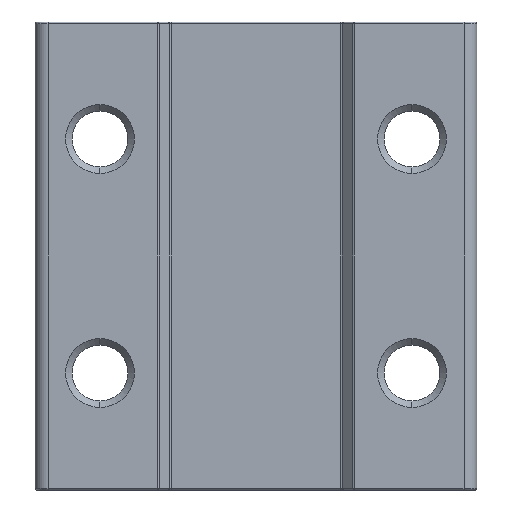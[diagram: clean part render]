
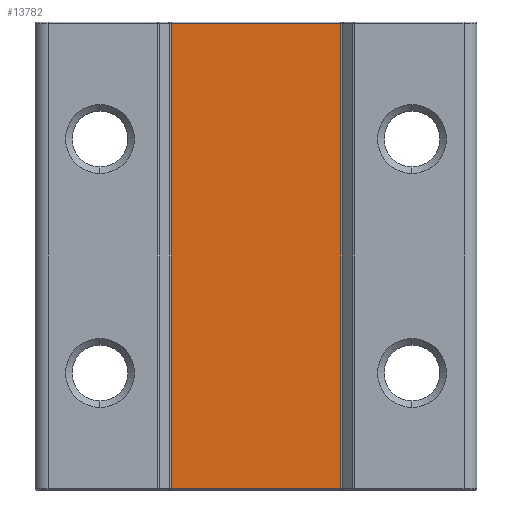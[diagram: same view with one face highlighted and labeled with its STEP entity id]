
A CAD part, front view. The second image highlights one B-rep face of the part: STEP entity #13782.
In plain terms, the highlighted planar face has unit normal (0, -1, 0).
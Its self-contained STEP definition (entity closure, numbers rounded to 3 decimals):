
#164 = DIRECTION ( 'NONE',  ( 0., 1., 0. ) ) ;
#210 = FACE_OUTER_BOUND ( 'NONE', #3629, .T. ) ;
#1687 = VECTOR ( 'NONE', #13548, 1000. ) ;
#1826 = CARTESIAN_POINT ( 'NONE',  ( -6.538, -10.55, 35.85 ) ) ;
#2332 = VERTEX_POINT ( 'NONE', #1826 ) ;
#2876 = EDGE_CURVE ( 'NONE', #4246, #12852, #13939, .T. ) ;
#3629 = EDGE_LOOP ( 'NONE', ( #4245, #13771, #9059, #12919 ) ) ;
#4245 = ORIENTED_EDGE ( 'NONE', *, *, #2876, .T. ) ;
#4246 = VERTEX_POINT ( 'NONE', #12063 ) ;
#5740 = CARTESIAN_POINT ( 'NONE',  ( -6.538, -10.55, 0. ) ) ;
#6195 = EDGE_CURVE ( 'NONE', #12852, #12703, #8408, .T. ) ;
#6655 = EDGE_CURVE ( 'NONE', #12703, #2332, #8896, .T. ) ;
#6667 = DIRECTION ( 'NONE',  ( 0., 0., 1. ) ) ;
#6723 = LINE ( 'NONE', #5740, #12490 ) ;
#6887 = DIRECTION ( 'NONE',  ( 0., 0., -1. ) ) ;
#7063 = CARTESIAN_POINT ( 'NONE',  ( -6.6, -10.55, 36. ) ) ;
#7573 = EDGE_CURVE ( 'NONE', #2332, #4246, #6723, .T. ) ;
#8228 = DIRECTION ( 'NONE',  ( -1., 0., 0. ) ) ;
#8408 = LINE ( 'NONE', #11293, #10756 ) ;
#8564 = VECTOR ( 'NONE', #12728, 1000. ) ;
#8896 = LINE ( 'NONE', #11494, #8564 ) ;
#9059 = ORIENTED_EDGE ( 'NONE', *, *, #6655, .T. ) ;
#10756 = VECTOR ( 'NONE', #6667, 1000. ) ;
#11229 = CARTESIAN_POINT ( 'NONE',  ( 6.6, -10.55, 0.15 ) ) ;
#11293 = CARTESIAN_POINT ( 'NONE',  ( 6.538, -10.55, 36. ) ) ;
#11494 = CARTESIAN_POINT ( 'NONE',  ( -6.6, -10.55, 35.85 ) ) ;
#12063 = CARTESIAN_POINT ( 'NONE',  ( -6.538, -10.55, 0.15 ) ) ;
#12354 = AXIS2_PLACEMENT_3D ( 'NONE', #7063, #164, #8228 ) ;
#12490 = VECTOR ( 'NONE', #6887, 1000. ) ;
#12552 = CARTESIAN_POINT ( 'NONE',  ( 6.538, -10.55, 0.15 ) ) ;
#12703 = VERTEX_POINT ( 'NONE', #13306 ) ;
#12728 = DIRECTION ( 'NONE',  ( -1., 0., 0. ) ) ;
#12790 = PLANE ( 'NONE',  #12354 ) ;
#12852 = VERTEX_POINT ( 'NONE', #12552 ) ;
#12919 = ORIENTED_EDGE ( 'NONE', *, *, #7573, .T. ) ;
#13306 = CARTESIAN_POINT ( 'NONE',  ( 6.538, -10.55, 35.85 ) ) ;
#13548 = DIRECTION ( 'NONE',  ( 1., 0., 0. ) ) ;
#13771 = ORIENTED_EDGE ( 'NONE', *, *, #6195, .T. ) ;
#13782 = ADVANCED_FACE ( 'NONE', ( #210 ), #12790, .F. ) ;
#13939 = LINE ( 'NONE', #11229, #1687 ) ;
